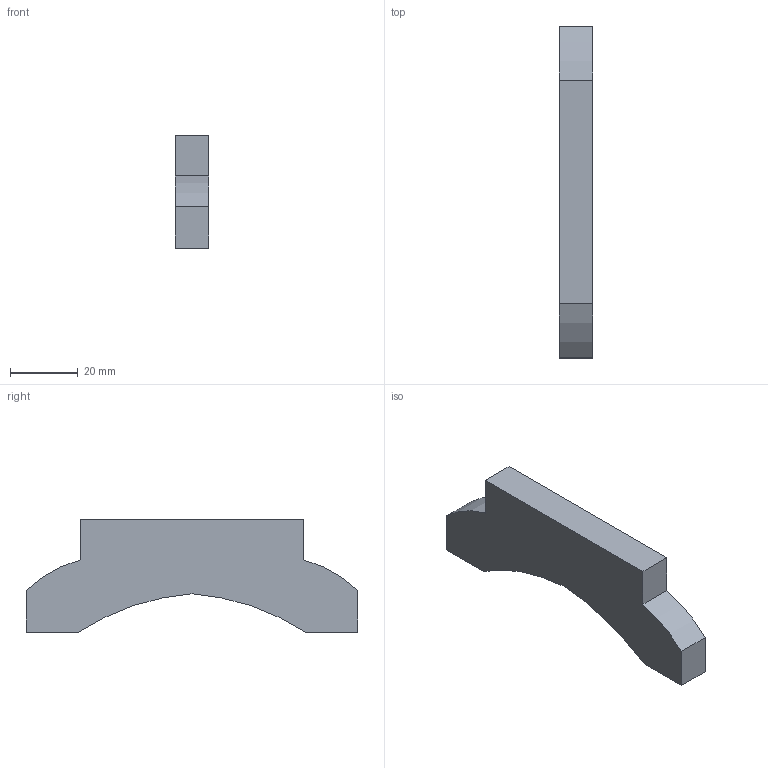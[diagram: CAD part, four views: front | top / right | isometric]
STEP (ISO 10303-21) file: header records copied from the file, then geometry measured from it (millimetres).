
FILE_DESCRIPTION(/* description */ (''),/* implementation_level */ '2;1');
FILE_NAME(/* name */ 'Let Left.step',/* time_stamp */ '2024-01-09T10:08:09-05:00',/* author */ (''),/* organization */ (''),/* preprocessor_version */ 'ST-DEVELOPER v20',/* originating_system */ 'Autodesk Translation Framework v12.14.0.127',/* authorisation */ '');
FILE_SCHEMA (('AUTOMOTIVE_DESIGN { 1 0 10303 214 3 1 1 }'));
Length unit declared in the file: millimetre
Products named in the file (1): Let Left
Bounding box: 10 x 97.94 x 33.18 mm (x, y, z)
Volume: 22696.3 mm3; surface area: 7077.7 mm2
Topology: 1 solids, 1 shells, 13 faces, 33 edges, 22 vertices
Faces by surface type: plane 9, cylinder 4
Entity records: 435 total; most frequent: DIRECTION 69, CARTESIAN_POINT 69, ORIENTED_EDGE 66, EDGE_CURVE 33, LINE 25, VECTOR 25, VERTEX_POINT 22, AXIS2_PLACEMENT_3D 22
